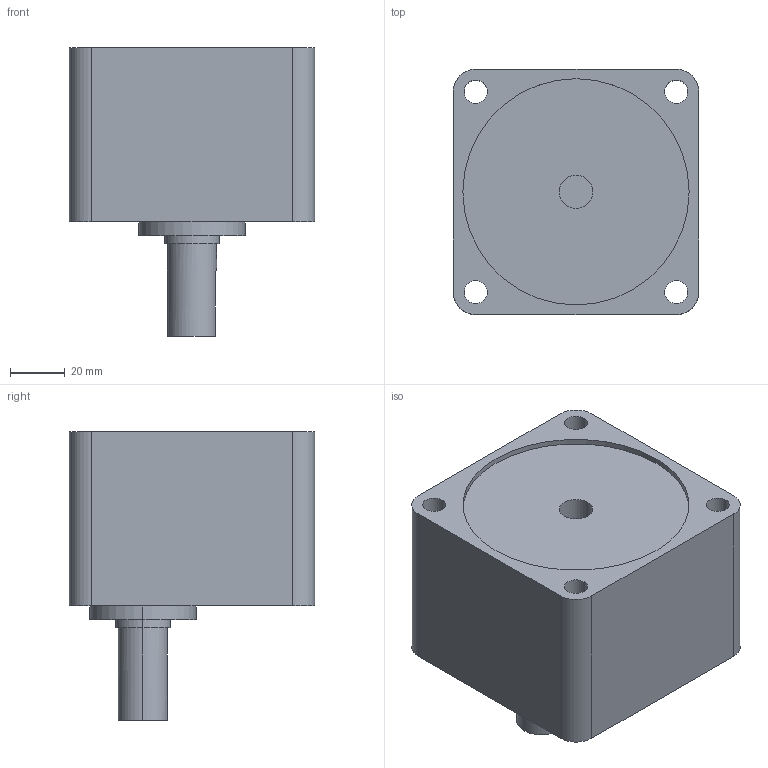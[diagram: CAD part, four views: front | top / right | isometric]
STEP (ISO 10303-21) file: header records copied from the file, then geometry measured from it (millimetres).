
FILE_DESCRIPTION (( 'STEP AP203' ), '1' );
FILE_NAME ('A1893C.step', '2024-04-24T09:24:57', ( '' ), ( '' ), 'SwSTEP 2.0', 'SolidWorks 2023', '' );
FILE_SCHEMA (( 'CONFIG_CONTROL_DESIGN' ));
Length unit declared in the file: millimetre
Products named in the file (1): A1893C
Bounding box: 90 x 90 x 106 mm (x, y, z)
Volume: 499502.7 mm3; surface area: 49350.1 mm2
Topology: 1 solids, 1 shells, 49 faces, 116 edges, 75 vertices
Faces by surface type: cylinder 29, plane 16, cone 4
Entity records: 1542 total; most frequent: DIRECTION 271, CARTESIAN_POINT 269, ORIENTED_EDGE 228, EDGE_CURVE 114, AXIS2_PLACEMENT_3D 109, VERTEX_POINT 75, EDGE_LOOP 65, CIRCLE 59
